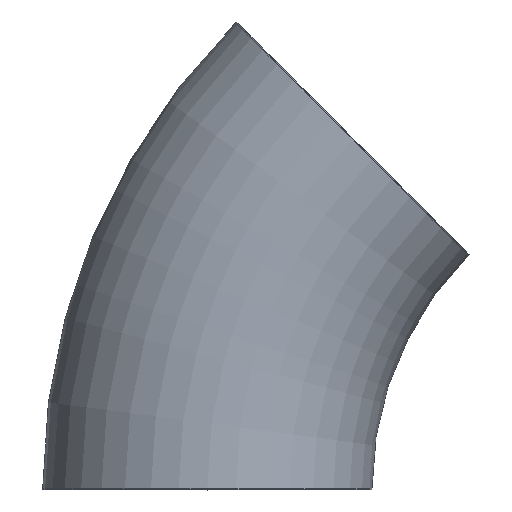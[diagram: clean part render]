
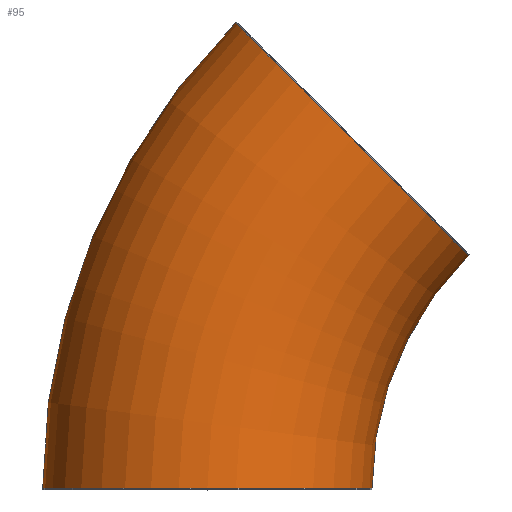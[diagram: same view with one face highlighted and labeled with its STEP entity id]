
A CAD part, top view. The second image highlights one B-rep face of the part: STEP entity #95.
In plain terms, the highlighted toroidal (fillet/blend) face has major radius 228.6 mm and minor radius 76.2 mm.
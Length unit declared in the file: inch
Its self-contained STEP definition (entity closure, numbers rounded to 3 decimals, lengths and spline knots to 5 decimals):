
#12 = AXIS2_PLACEMENT_3D ( 'NONE', #347, #333, #277 ) ;
#13 = TOROIDAL_SURFACE ( 'NONE', #34, 9., 3. ) ;
#34 = AXIS2_PLACEMENT_3D ( 'NONE', #224, #292, #249 ) ;
#52 = FACE_OUTER_BOUND ( 'NONE', #327, .T. ) ;
#61 = ORIENTED_EDGE ( 'NONE', *, *, #221, .T. ) ;
#77 = AXIS2_PLACEMENT_3D ( 'NONE', #209, #222, #315 ) ;
#91 = EDGE_CURVE ( 'NONE', #326, #330, #426, .T. ) ;
#94 = AXIS2_PLACEMENT_3D ( 'NONE', #195, #191, #190 ) ;
#95 = ADVANCED_FACE ( 'NONE', ( #52 ), #13, .T. ) ;
#100 = CARTESIAN_POINT ( 'NONE',  ( -3., 0.022, 0. ) ) ;
#103 = CARTESIAN_POINT ( 'NONE',  ( 0., 0.022, 3. ) ) ;
#122 = EDGE_CURVE ( 'NONE', #230, #213, #123, .T. ) ;
#123 = CIRCLE ( 'NONE', #12, 3. ) ;
#137 = ORIENTED_EDGE ( 'NONE', *, *, #235, .T. ) ;
#140 = CIRCLE ( 'NONE', #94, 12. ) ;
#166 = CARTESIAN_POINT ( 'NONE',  ( 3., 0.022, 0. ) ) ;
#179 = CIRCLE ( 'NONE', #356, 6. ) ;
#190 = DIRECTION ( 'NONE',  ( -1., 0., 0. ) ) ;
#191 = DIRECTION ( 'NONE',  ( 0., 0., -1. ) ) ;
#195 = CARTESIAN_POINT ( 'NONE',  ( 9., 0.022, 0. ) ) ;
#209 = CARTESIAN_POINT ( 'NONE',  ( 0., 0.022, 0. ) ) ;
#213 = VERTEX_POINT ( 'NONE', #314 ) ;
#221 = EDGE_CURVE ( 'NONE', #330, #335, #278, .T. ) ;
#222 = DIRECTION ( 'NONE',  ( 0., 1., 0. ) ) ;
#223 = DIRECTION ( 'NONE',  ( -1., 0., 0. ) ) ;
#224 = CARTESIAN_POINT ( 'NONE',  ( 9., 0.022, 0. ) ) ;
#227 = DIRECTION ( 'NONE',  ( 0., 0., -1. ) ) ;
#229 = CARTESIAN_POINT ( 'NONE',  ( 9., 0.022, 0. ) ) ;
#230 = VERTEX_POINT ( 'NONE', #306 ) ;
#235 = EDGE_CURVE ( 'NONE', #335, #213, #179, .T. ) ;
#248 = EDGE_CURVE ( 'NONE', #326, #230, #140, .T. ) ;
#249 = DIRECTION ( 'NONE',  ( -1., 0., 0. ) ) ;
#277 = DIRECTION ( 'NONE',  ( 0., 0., 1. ) ) ;
#278 = CIRCLE ( 'NONE', #407, 3. ) ;
#281 = DIRECTION ( 'NONE',  ( 0., 0., 1. ) ) ;
#282 = DIRECTION ( 'NONE',  ( 0., 1., 0. ) ) ;
#283 = CARTESIAN_POINT ( 'NONE',  ( 0., 0.022, 0. ) ) ;
#289 = ORIENTED_EDGE ( 'NONE', *, *, #248, .F. ) ;
#292 = DIRECTION ( 'NONE',  ( 0., 0., -1. ) ) ;
#306 = CARTESIAN_POINT ( 'NONE',  ( 0.51472, 8.50728, 0. ) ) ;
#314 = CARTESIAN_POINT ( 'NONE',  ( 4.75736, 4.26464, 0. ) ) ;
#315 = DIRECTION ( 'NONE',  ( 0., 0., 1. ) ) ;
#326 = VERTEX_POINT ( 'NONE', #100 ) ;
#327 = EDGE_LOOP ( 'NONE', ( #289, #474, #61, #137, #481 ) ) ;
#330 = VERTEX_POINT ( 'NONE', #103 ) ;
#333 = DIRECTION ( 'NONE',  ( 0.707, 0.707, 0. ) ) ;
#335 = VERTEX_POINT ( 'NONE', #166 ) ;
#347 = CARTESIAN_POINT ( 'NONE',  ( 2.63604, 6.38596, 0. ) ) ;
#356 = AXIS2_PLACEMENT_3D ( 'NONE', #229, #227, #223 ) ;
#407 = AXIS2_PLACEMENT_3D ( 'NONE', #283, #282, #281 ) ;
#426 = CIRCLE ( 'NONE', #77, 3. ) ;
#474 = ORIENTED_EDGE ( 'NONE', *, *, #91, .T. ) ;
#481 = ORIENTED_EDGE ( 'NONE', *, *, #122, .F. ) ;
